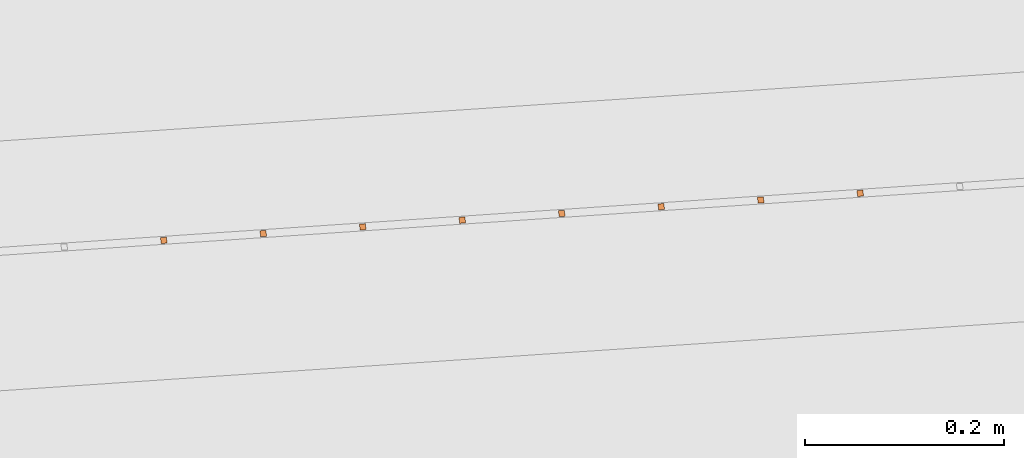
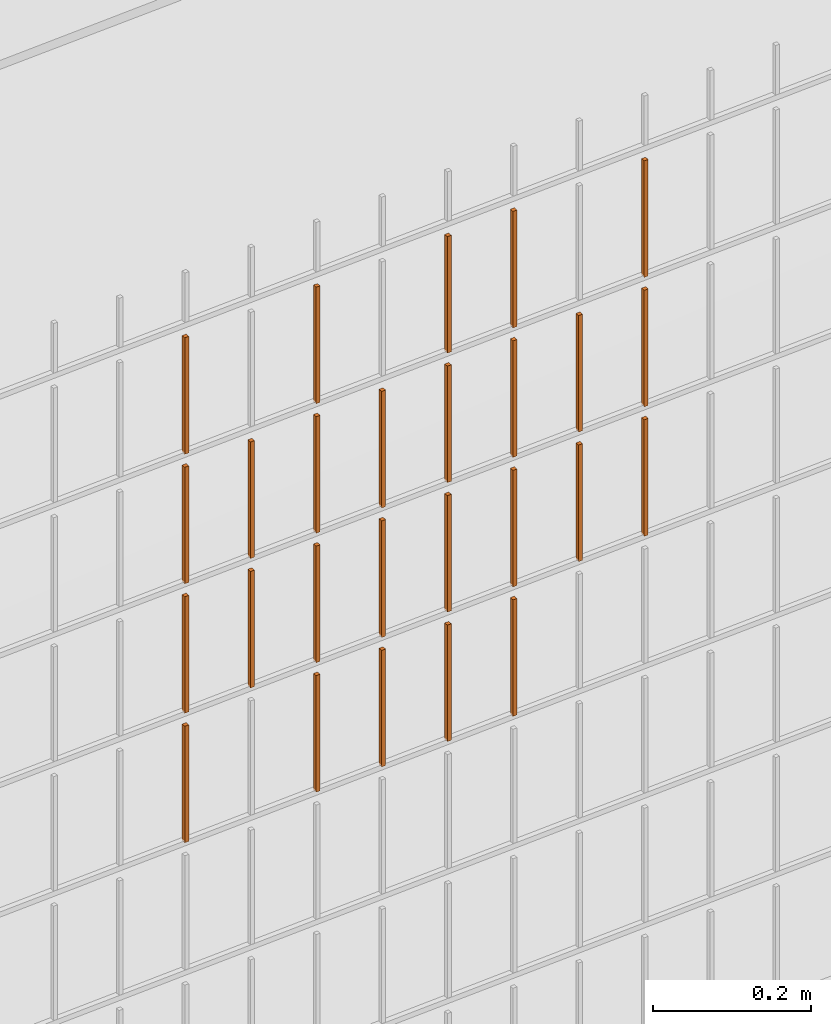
# One storey, part 206 of 1809: 26 proxies, 1 element without a shape of its own.
"""IFC2X3 building model written with IfcOpenShell, lengths in millimetres."""

from ifc_helpers import new_model, entity, si_unit, converted_unit, derived_unit, money_unit, direction, frame, origin_with_axes, place, context, subcontext, project, spatial, faceted_brep, source, transform, mapped, material, type_object, element, aggregate, save


model = new_model("IFC2X3")

# Units and contexts
model_context = context("Model", 3, precision=0.01, world=origin_with_axes(), true_north=direction((0.0, 1.0)))
body_context = subcontext(model_context, "Body", "Model", "MODEL_VIEW")
ifc_project = project(units=[si_unit("LENGTHUNIT", "METRE", prefix="MILLI"), si_unit("AREAUNIT", "SQUARE_METRE"), si_unit("VOLUMEUNIT", "CUBIC_METRE"), converted_unit("PLANEANGLEUNIT", "DEGREE", entity("IfcPlaneAngleMeasure", 0.0174532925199), si_unit("PLANEANGLEUNIT", "RADIAN"), dimensions=[0, 0, 0, 0, 0, 0, 0]), si_unit("SOLIDANGLEUNIT", "STERADIAN"), money_unit("EUR"), converted_unit("TIMEUNIT", "Year", entity("IfcTimeMeasure", 31556926.0), si_unit("TIMEUNIT", "SECOND"), dimensions=[0, 0, 1, 0, 0, 0, 0]), si_unit("MASSUNIT", "GRAM", prefix="KILO"), si_unit("THERMODYNAMICTEMPERATUREUNIT", "DEGREE_CELSIUS"), si_unit("LUMINOUSINTENSITYUNIT", "LUMEN"), si_unit("ENERGYUNIT", "JOULE", prefix="MEGA"), derived_unit("THERMALCONDUCTANCEUNIT", [(si_unit("POWERUNIT", "WATT"), 1), (si_unit("LENGTHUNIT", "METRE"), -1), (si_unit("THERMODYNAMICTEMPERATUREUNIT", "KELVIN"), -1)]), derived_unit("SPECIFICHEATCAPACITYUNIT", [(si_unit("ENERGYUNIT", "JOULE"), 1), (si_unit("MASSUNIT", "GRAM", prefix="KILO"), -1), (si_unit("THERMODYNAMICTEMPERATUREUNIT", "KELVIN"), -1)]), derived_unit("MASSDENSITYUNIT", [(si_unit("MASSUNIT", "GRAM", prefix="KILO"), 1), (si_unit("VOLUMEUNIT", "CUBIC_METRE"), -1)])], contexts=[model_context])

# Site, building, storey
site_placement = place(None, origin_with_axes())
site = spatial("IfcSite", under=ifc_project, at=site_placement, Name="Politse- ja Piirivalveameti ning Päästeameti ühishoone", CompositionType="ELEMENT")
building_placement = place(site_placement, origin_with_axes())
building = spatial("IfcBuilding", under=site, at=building_placement, Name="Politse- ja Piirivalveameti ning Päästeameti ühishoone", CompositionType="ELEMENT")
storey_placement = place(building_placement, origin_with_axes())
storey = spatial("IfcBuildingStorey", under=building, at=storey_placement, Name="Esimene korrus", CompositionType="ELEMENT", Elevation=0.0)

# Proxies
building_element_proxy_type_1 = type_object("IfcBuildingElementProxyType", Name="Railing Type", PredefinedType="NOTDEFINED")
proxy_1_placement = place(storey_placement, frame((89252.001212, -29183.4766571, 203.661247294), z_axis=(0.0, 0.0, 1.0), x_axis=(1.0, 0.0, 0.0)))
proxy_1 = element("IfcBuildingElementProxy", 1, at=proxy_1_placement, inside=storey, type_object=building_element_proxy_type_1, Name="PIIRDEAED")
ifc_material = material(Name="ET-03_Raud")
building_element_proxy_type_2 = type_object("IfcBuildingElementProxyType", Name="IfcBuildingElementProxy", PredefinedType="NOTDEFINED")
shared_shape_1 = source(origin_with_axes(), body_context, "Body", "Brep", [
    faceted_brep([(3.0, 3.0, -0.000752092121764), (-3.0, 3.0, -0.000752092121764), (-3.0, 3.0, 179.99926046), (3.0, 3.0, 179.99926046), (3.0, -3.0, 0.000752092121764), (-3.0, -3.0, 0.000752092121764), (-3.0, -3.0, 180.000764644), (3.0, -3.0, 180.000764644)], [[[0, 1, 2, 3]], [[0, 4, 5, 1]], [[1, 5, 6, 2]], [[3, 2, 6, 7]], [[4, 0, 3, 7]], [[5, 4, 7, 6]]]),
])
proxy_2_placement = place(proxy_1_placement, frame((-63681.5799241, -21599.2251599, 1211.23320245), z_axis=(0.0, 0.0, 1.0), x_axis=(1.0, 0.0, 0.0)))
proxy_2 = element("IfcBuildingElementProxy", 2, at=proxy_2_placement, type_object=building_element_proxy_type_2, material=ifc_material, Name="BALUSTER - 001", context=body_context, shape_type="MappedRepresentation", body=[
    mapped(shared_shape_1, transform((0.0, 0.0, 0.0), x_axis=(-0.0673926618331, 0.997726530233, 0.0), y_axis=(-0.997726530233, -0.0673926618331, 0.0), z_axis=(0.0, 0.0, 1.0))),
])
shared_shape_2 = source(origin_with_axes(), body_context, "Body", "Brep", [
    faceted_brep([(3.0, 3.0, -0.000752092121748), (-3.0, 3.0, -0.00075209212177), (-3.0, 3.0, 179.99926046), (3.0, 3.0, 179.99926046), (3.0, -3.0, 0.00075209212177), (-3.0, -3.0, 0.000752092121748), (-3.0, -3.0, 180.000764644), (3.0, -3.0, 180.000764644)], [[[0, 1, 2, 3]], [[0, 4, 5, 1]], [[1, 5, 6, 2]], [[3, 2, 6, 7]], [[4, 0, 3, 7]], [[5, 4, 7, 6]]]),
])
proxy_3_placement = place(proxy_1_placement, frame((-63382.261965, -21579.0073613, 1811.30841166), z_axis=(0.0, 0.0, 1.0), x_axis=(1.0, 0.0, 0.0)))
proxy_3 = element("IfcBuildingElementProxy", 3, at=proxy_3_placement, type_object=building_element_proxy_type_2, material=ifc_material, Name="BALUSTER - 001", context=body_context, shape_type="MappedRepresentation", body=[
    mapped(shared_shape_2, transform((0.0, 0.0, 0.0), x_axis=(-0.0673926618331, 0.997726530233, 0.0), y_axis=(-0.997726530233, -0.0673926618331, 0.0), z_axis=(0.0, 0.0, 1.0))),
])
shared_shape_3 = source(origin_with_axes(), body_context, "Body", "Brep", [
    faceted_brep([(3.0, 3.0, -0.000752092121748), (-3.0, 3.0, -0.00075209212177), (-3.0, 3.0, 179.99926046), (3.0, 3.0, 179.99926046), (3.0, -3.0, 0.00075209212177), (-3.0, -3.0, 0.000752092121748), (-3.0, -3.0, 180.000764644), (3.0, -3.0, 180.000764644)], [[[0, 1, 2, 3]], [[0, 4, 5, 1]], [[1, 5, 6, 2]], [[3, 2, 6, 7]], [[4, 0, 3, 7]], [[5, 4, 7, 6]]]),
])
proxy_4_placement = place(proxy_1_placement, frame((-63382.261965, -21579.0073613, 1211.30841166), z_axis=(0.0, 0.0, 1.0), x_axis=(1.0, 0.0, 0.0)))
proxy_4 = element("IfcBuildingElementProxy", 4, at=proxy_4_placement, type_object=building_element_proxy_type_2, material=ifc_material, Name="BALUSTER - 001", context=body_context, shape_type="MappedRepresentation", body=[
    mapped(shared_shape_3, transform((0.0, 0.0, 0.0), x_axis=(-0.0673926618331, 0.997726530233, 0.0), y_axis=(-0.997726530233, -0.0673926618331, 0.0), z_axis=(0.0, 0.0, 1.0))),
])
shared_shape_4 = source(origin_with_axes(), body_context, "Body", "Brep", [
    faceted_brep([(3.0, 3.0, -0.000752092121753), (-3.0, 3.0, -0.000752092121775), (-3.0, 3.0, 179.99926046), (3.0, 3.0, 179.99926046), (3.0, -3.0, 0.000752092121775), (-3.0, -3.0, 0.000752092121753), (-3.0, -3.0, 180.000764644), (3.0, -3.0, 180.000764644)], [[[0, 1, 2, 3]], [[0, 4, 5, 1]], [[1, 5, 6, 2]], [[3, 2, 6, 7]], [[4, 0, 3, 7]], [[5, 4, 7, 6]]]),
])
proxy_5_placement = place(proxy_1_placement, frame((-63182.7166589, -21565.5288289, 1811.35855114), z_axis=(0.0, 0.0, 1.0), x_axis=(1.0, 0.0, 0.0)))
proxy_5 = element("IfcBuildingElementProxy", 5, at=proxy_5_placement, type_object=building_element_proxy_type_2, material=ifc_material, Name="BALUSTER - 001", context=body_context, shape_type="MappedRepresentation", body=[
    mapped(shared_shape_4, transform((0.0, 0.0, 0.0), x_axis=(-0.0673926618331, 0.997726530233, 0.0), y_axis=(-0.997726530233, -0.0673926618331, 0.0), z_axis=(0.0, 0.0, 1.0))),
])
proxy_6_placement = place(proxy_1_placement, frame((-63482.034618, -21585.7466275, 1811.28334193), z_axis=(0.0, 0.0, 1.0), x_axis=(1.0, 0.0, 0.0)))
proxy_6 = element("IfcBuildingElementProxy", 6, at=proxy_6_placement, type_object=building_element_proxy_type_2, material=ifc_material, Name="BALUSTER - 001", context=body_context, shape_type="MappedRepresentation", body=[
    mapped(shared_shape_4, transform((0.0, 0.0, 0.0), x_axis=(-0.0673926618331, 0.997726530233, 0.0), y_axis=(-0.997726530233, -0.0673926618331, 0.0), z_axis=(0.0, 0.0, 1.0))),
])
shared_shape_5 = source(origin_with_axes(), body_context, "Body", "Brep", [
    faceted_brep([(3.0, 3.0, -0.000752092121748), (-3.0, 3.0, -0.00075209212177), (-3.0, 3.0, 179.99926046), (3.0, 3.0, 179.99926046), (3.0, -3.0, 0.00075209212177), (-3.0, -3.0, 0.000752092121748), (-3.0, -3.0, 180.000764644), (3.0, -3.0, 180.000764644)], [[[0, 1, 2, 3]], [[0, 4, 5, 1]], [[1, 5, 6, 2]], [[3, 2, 6, 7]], [[4, 0, 3, 7]], [[5, 4, 7, 6]]]),
])
proxy_7_placement = place(proxy_1_placement, frame((-63382.261965, -21579.0073613, 1411.30841166), z_axis=(0.0, 0.0, 1.0), x_axis=(1.0, 0.0, 0.0)))
proxy_7 = element("IfcBuildingElementProxy", 7, at=proxy_7_placement, type_object=building_element_proxy_type_2, material=ifc_material, Name="BALUSTER - 001", context=body_context, shape_type="MappedRepresentation", body=[
    mapped(shared_shape_5, transform((0.0, 0.0, 0.0), x_axis=(-0.0673926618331, 0.997726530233, 0.0), y_axis=(-0.997726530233, -0.0673926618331, 0.0), z_axis=(0.0, 0.0, 1.0))),
])
proxy_8_placement = place(proxy_1_placement, frame((-63382.261965, -21579.0073613, 1611.30841166), z_axis=(0.0, 0.0, 1.0), x_axis=(1.0, 0.0, 0.0)))
proxy_8 = element("IfcBuildingElementProxy", 8, at=proxy_8_placement, type_object=building_element_proxy_type_2, material=ifc_material, Name="BALUSTER - 001", context=body_context, shape_type="MappedRepresentation", body=[
    mapped(shared_shape_5, transform((0.0, 0.0, 0.0), x_axis=(-0.0673926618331, 0.997726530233, 0.0), y_axis=(-0.997726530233, -0.0673926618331, 0.0), z_axis=(0.0, 0.0, 1.0))),
])
shared_shape_6 = source(origin_with_axes(), body_context, "Body", "Brep", [
    faceted_brep([(3.0, 3.0, -0.000752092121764), (-3.0, 3.0, -0.000752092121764), (-3.0, 3.0, 179.99926046), (3.0, 3.0, 179.99926046), (3.0, -3.0, 0.000752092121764), (-3.0, -3.0, 0.000752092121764), (-3.0, -3.0, 180.000764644), (3.0, -3.0, 180.000764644)], [[[0, 1, 2, 3]], [[0, 4, 5, 1]], [[1, 5, 6, 2]], [[3, 2, 6, 7]], [[4, 0, 3, 7]], [[5, 4, 7, 6]]]),
])
proxy_9_placement = place(proxy_1_placement, frame((-63681.5799241, -21599.2251599, 1811.23320245), z_axis=(0.0, 0.0, 1.0), x_axis=(1.0, 0.0, 0.0)))
proxy_9 = element("IfcBuildingElementProxy", 9, at=proxy_9_placement, type_object=building_element_proxy_type_2, material=ifc_material, Name="BALUSTER - 001", context=body_context, shape_type="MappedRepresentation", body=[
    mapped(shared_shape_6, transform((0.0, 0.0, 0.0), x_axis=(-0.0673926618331, 0.997726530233, 0.0), y_axis=(-0.997726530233, -0.0673926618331, 0.0), z_axis=(0.0, 0.0, 1.0))),
])
shared_shape_7 = source(origin_with_axes(), body_context, "Body", "Brep", [
    faceted_brep([(3.0, 3.0, -0.000752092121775), (-3.0, 3.0, -0.000752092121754), (-3.0, 3.0, 179.99926046), (3.0, 3.0, 179.99926046), (3.0, -3.0, 0.000752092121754), (-3.0, -3.0, 0.000752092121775), (-3.0, -3.0, 180.000764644), (3.0, -3.0, 180.000764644)], [[[0, 1, 2, 3]], [[0, 4, 5, 1]], [[1, 5, 6, 2]], [[3, 2, 6, 7]], [[4, 0, 3, 7]], [[5, 4, 7, 6]]]),
])
proxy_10_placement = place(proxy_1_placement, frame((-63581.807271, -21592.4858937, 1211.25827219), z_axis=(0.0, 0.0, 1.0), x_axis=(1.0, 0.0, 0.0)))
proxy_10 = element("IfcBuildingElementProxy", 10, at=proxy_10_placement, type_object=building_element_proxy_type_2, material=ifc_material, Name="BALUSTER - 001", context=body_context, shape_type="MappedRepresentation", body=[
    mapped(shared_shape_7, transform((0.0, 0.0, 0.0), x_axis=(-0.0673926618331, 0.997726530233, 0.0), y_axis=(-0.997726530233, -0.0673926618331, 0.0), z_axis=(0.0, 0.0, 1.0))),
])
shared_shape_8 = source(origin_with_axes(), body_context, "Body", "Brep", [
    faceted_brep([(3.0, 3.0, -0.000752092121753), (-3.0, 3.0, -0.000752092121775), (-3.0, 3.0, 179.99926046), (3.0, 3.0, 179.99926046), (3.0, -3.0, 0.000752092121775), (-3.0, -3.0, 0.000752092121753), (-3.0, -3.0, 180.000764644), (3.0, -3.0, 180.000764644)], [[[0, 1, 2, 3]], [[0, 4, 5, 1]], [[1, 5, 6, 2]], [[3, 2, 6, 7]], [[4, 0, 3, 7]], [[5, 4, 7, 6]]]),
])
proxy_11_placement = place(proxy_1_placement, frame((-63482.034618, -21585.7466275, 1211.28334193), z_axis=(0.0, 0.0, 1.0), x_axis=(1.0, 0.0, 0.0)))
proxy_11 = element("IfcBuildingElementProxy", 11, at=proxy_11_placement, type_object=building_element_proxy_type_2, material=ifc_material, Name="BALUSTER - 001", context=body_context, shape_type="MappedRepresentation", body=[
    mapped(shared_shape_8, transform((0.0, 0.0, 0.0), x_axis=(-0.0673926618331, 0.997726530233, 0.0), y_axis=(-0.997726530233, -0.0673926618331, 0.0), z_axis=(0.0, 0.0, 1.0))),
])
shared_shape_9 = source(origin_with_axes(), body_context, "Body", "Brep", [
    faceted_brep([(3.0, 3.0, -0.000752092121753), (-3.0, 3.0, -0.000752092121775), (-3.0, 3.0, 179.99926046), (3.0, 3.0, 179.99926046), (3.0, -3.0, 0.000752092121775), (-3.0, -3.0, 0.000752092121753), (-3.0, -3.0, 180.000764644), (3.0, -3.0, 180.000764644)], [[[0, 1, 2, 3]], [[0, 4, 5, 1]], [[1, 5, 6, 2]], [[3, 2, 6, 7]], [[4, 0, 3, 7]], [[5, 4, 7, 6]]]),
])
proxy_12_placement = place(proxy_1_placement, frame((-63182.7166589, -21565.5288289, 1411.35855114), z_axis=(0.0, 0.0, 1.0), x_axis=(1.0, 0.0, 0.0)))
proxy_12 = element("IfcBuildingElementProxy", 12, at=proxy_12_placement, type_object=building_element_proxy_type_2, material=ifc_material, Name="BALUSTER - 001", context=body_context, shape_type="MappedRepresentation", body=[
    mapped(shared_shape_9, transform((0.0, 0.0, 0.0), x_axis=(-0.0673926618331, 0.997726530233, 0.0), y_axis=(-0.997726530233, -0.0673926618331, 0.0), z_axis=(0.0, 0.0, 1.0))),
])
proxy_13_placement = place(proxy_1_placement, frame((-63482.034618, -21585.7466275, 1411.28334193), z_axis=(0.0, 0.0, 1.0), x_axis=(1.0, 0.0, 0.0)))
proxy_13 = element("IfcBuildingElementProxy", 13, at=proxy_13_placement, type_object=building_element_proxy_type_2, material=ifc_material, Name="BALUSTER - 001", context=body_context, shape_type="MappedRepresentation", body=[
    mapped(shared_shape_9, transform((0.0, 0.0, 0.0), x_axis=(-0.0673926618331, 0.997726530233, 0.0), y_axis=(-0.997726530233, -0.0673926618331, 0.0), z_axis=(0.0, 0.0, 1.0))),
])
proxy_14_placement = place(proxy_1_placement, frame((-63182.7166589, -21565.5288289, 1611.35855114), z_axis=(0.0, 0.0, 1.0), x_axis=(1.0, 0.0, 0.0)))
proxy_14 = element("IfcBuildingElementProxy", 14, at=proxy_14_placement, type_object=building_element_proxy_type_2, material=ifc_material, Name="BALUSTER - 001", context=body_context, shape_type="MappedRepresentation", body=[
    mapped(shared_shape_9, transform((0.0, 0.0, 0.0), x_axis=(-0.0673926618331, 0.997726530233, 0.0), y_axis=(-0.997726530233, -0.0673926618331, 0.0), z_axis=(0.0, 0.0, 1.0))),
])
proxy_15_placement = place(proxy_1_placement, frame((-63482.034618, -21585.7466275, 1611.28334193), z_axis=(0.0, 0.0, 1.0), x_axis=(1.0, 0.0, 0.0)))
proxy_15 = element("IfcBuildingElementProxy", 15, at=proxy_15_placement, type_object=building_element_proxy_type_2, material=ifc_material, Name="BALUSTER - 001", context=body_context, shape_type="MappedRepresentation", body=[
    mapped(shared_shape_9, transform((0.0, 0.0, 0.0), x_axis=(-0.0673926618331, 0.997726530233, 0.0), y_axis=(-0.997726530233, -0.0673926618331, 0.0), z_axis=(0.0, 0.0, 1.0))),
])
shared_shape_10 = source(origin_with_axes(), body_context, "Body", "Brep", [
    faceted_brep([(3.0, 3.0, -0.000752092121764), (-3.0, 3.0, -0.000752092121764), (-3.0, 3.0, 179.99926046), (3.0, 3.0, 179.99926046), (3.0, -3.0, 0.000752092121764), (-3.0, -3.0, 0.000752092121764), (-3.0, -3.0, 180.000764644), (3.0, -3.0, 180.000764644)], [[[0, 1, 2, 3]], [[0, 4, 5, 1]], [[1, 5, 6, 2]], [[3, 2, 6, 7]], [[4, 0, 3, 7]], [[5, 4, 7, 6]]]),
])
proxy_16_placement = place(proxy_1_placement, frame((-63681.5799241, -21599.2251599, 1411.23320245), z_axis=(0.0, 0.0, 1.0), x_axis=(1.0, 0.0, 0.0)))
proxy_16 = element("IfcBuildingElementProxy", 16, at=proxy_16_placement, type_object=building_element_proxy_type_2, material=ifc_material, Name="BALUSTER - 001", context=body_context, shape_type="MappedRepresentation", body=[
    mapped(shared_shape_10, transform((0.0, 0.0, 0.0), x_axis=(-0.0673926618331, 0.997726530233, 0.0), y_axis=(-0.997726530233, -0.0673926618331, 0.0), z_axis=(0.0, 0.0, 1.0))),
])
proxy_17_placement = place(proxy_1_placement, frame((-63681.5799241, -21599.2251599, 1611.23320245), z_axis=(0.0, 0.0, 1.0), x_axis=(1.0, 0.0, 0.0)))
proxy_17 = element("IfcBuildingElementProxy", 17, at=proxy_17_placement, type_object=building_element_proxy_type_2, material=ifc_material, Name="BALUSTER - 001", context=body_context, shape_type="MappedRepresentation", body=[
    mapped(shared_shape_10, transform((0.0, 0.0, 0.0), x_axis=(-0.0673926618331, 0.997726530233, 0.0), y_axis=(-0.997726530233, -0.0673926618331, 0.0), z_axis=(0.0, 0.0, 1.0))),
])
shared_shape_11 = source(origin_with_axes(), body_context, "Body", "Brep", [
    faceted_brep([(3.0, 3.0, -0.000752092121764), (-3.0, 3.0, -0.000752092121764), (-3.0, 3.0, 179.99926046), (3.0, 3.0, 179.99926046), (3.0, -3.0, 0.000752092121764), (-3.0, -3.0, 0.000752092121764), (-3.0, -3.0, 180.000764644), (3.0, -3.0, 180.000764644)], [[[0, 1, 2, 3]], [[0, 4, 5, 1]], [[1, 5, 6, 2]], [[3, 2, 6, 7]], [[4, 0, 3, 7]], [[5, 4, 7, 6]]]),
])
proxy_18_placement = place(proxy_1_placement, frame((-63881.1252301, -21612.7036922, 1211.18306298), z_axis=(0.0, 0.0, 1.0), x_axis=(1.0, 0.0, 0.0)))
proxy_18 = element("IfcBuildingElementProxy", 18, at=proxy_18_placement, type_object=building_element_proxy_type_2, material=ifc_material, Name="BALUSTER - 001", context=body_context, shape_type="MappedRepresentation", body=[
    mapped(shared_shape_11, transform((0.0, 0.0, 0.0), x_axis=(-0.0673926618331, 0.997726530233, 0.0), y_axis=(-0.997726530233, -0.0673926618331, 0.0), z_axis=(0.0, 0.0, 1.0))),
])
shared_shape_12 = source(origin_with_axes(), body_context, "Body", "Brep", [
    faceted_brep([(3.0, 3.0, -0.000752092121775), (-3.0, 3.0, -0.000752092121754), (-3.0, 3.0, 179.99926046), (3.0, 3.0, 179.99926046), (3.0, -3.0, 0.000752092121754), (-3.0, -3.0, 0.000752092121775), (-3.0, -3.0, 180.000764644), (3.0, -3.0, 180.000764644)], [[[0, 1, 2, 3]], [[0, 4, 5, 1]], [[1, 5, 6, 2]], [[3, 2, 6, 7]], [[4, 0, 3, 7]], [[5, 4, 7, 6]]]),
])
proxy_19_placement = place(proxy_1_placement, frame((-63282.489312, -21572.2680951, 1411.3334814), z_axis=(0.0, 0.0, 1.0), x_axis=(1.0, 0.0, 0.0)))
proxy_19 = element("IfcBuildingElementProxy", 19, at=proxy_19_placement, type_object=building_element_proxy_type_2, material=ifc_material, Name="BALUSTER - 001", context=body_context, shape_type="MappedRepresentation", body=[
    mapped(shared_shape_12, transform((0.0, 0.0, 0.0), x_axis=(-0.0673926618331, 0.997726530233, 0.0), y_axis=(-0.997726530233, -0.0673926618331, 0.0), z_axis=(0.0, 0.0, 1.0))),
])
proxy_20_placement = place(proxy_1_placement, frame((-63282.489312, -21572.2680951, 1611.3334814), z_axis=(0.0, 0.0, 1.0), x_axis=(1.0, 0.0, 0.0)))
proxy_20 = element("IfcBuildingElementProxy", 20, at=proxy_20_placement, type_object=building_element_proxy_type_2, material=ifc_material, Name="BALUSTER - 001", context=body_context, shape_type="MappedRepresentation", body=[
    mapped(shared_shape_12, transform((0.0, 0.0, 0.0), x_axis=(-0.0673926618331, 0.997726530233, 0.0), y_axis=(-0.997726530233, -0.0673926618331, 0.0), z_axis=(0.0, 0.0, 1.0))),
])
shared_shape_13 = source(origin_with_axes(), body_context, "Body", "Brep", [
    faceted_brep([(3.0, 3.0, -0.000752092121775), (-3.0, 3.0, -0.000752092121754), (-3.0, 3.0, 179.99926046), (3.0, 3.0, 179.99926046), (3.0, -3.0, 0.000752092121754), (-3.0, -3.0, 0.000752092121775), (-3.0, -3.0, 180.000764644), (3.0, -3.0, 180.000764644)], [[[0, 1, 2, 3]], [[0, 4, 5, 1]], [[1, 5, 6, 2]], [[3, 2, 6, 7]], [[4, 0, 3, 7]], [[5, 4, 7, 6]]]),
])
proxy_21_placement = place(proxy_1_placement, frame((-63581.807271, -21592.4858937, 1411.25827219), z_axis=(0.0, 0.0, 1.0), x_axis=(1.0, 0.0, 0.0)))
proxy_21 = element("IfcBuildingElementProxy", 21, at=proxy_21_placement, type_object=building_element_proxy_type_2, material=ifc_material, Name="BALUSTER - 001", context=body_context, shape_type="MappedRepresentation", body=[
    mapped(shared_shape_13, transform((0.0, 0.0, 0.0), x_axis=(-0.0673926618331, 0.997726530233, 0.0), y_axis=(-0.997726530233, -0.0673926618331, 0.0), z_axis=(0.0, 0.0, 1.0))),
])
proxy_22_placement = place(proxy_1_placement, frame((-63581.807271, -21592.4858937, 1611.25827219), z_axis=(0.0, 0.0, 1.0), x_axis=(1.0, 0.0, 0.0)))
proxy_22 = element("IfcBuildingElementProxy", 22, at=proxy_22_placement, type_object=building_element_proxy_type_2, material=ifc_material, Name="BALUSTER - 001", context=body_context, shape_type="MappedRepresentation", body=[
    mapped(shared_shape_13, transform((0.0, 0.0, 0.0), x_axis=(-0.0673926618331, 0.997726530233, 0.0), y_axis=(-0.997726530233, -0.0673926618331, 0.0), z_axis=(0.0, 0.0, 1.0))),
])
shared_shape_14 = source(origin_with_axes(), body_context, "Body", "Brep", [
    faceted_brep([(3.0, 3.0, -0.000752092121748), (-3.0, 3.0, -0.00075209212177), (-3.0, 3.0, 179.99926046), (3.0, 3.0, 179.99926046), (3.0, -3.0, 0.00075209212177), (-3.0, -3.0, 0.000752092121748), (-3.0, -3.0, 180.000764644), (3.0, -3.0, 180.000764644)], [[[0, 1, 2, 3]], [[0, 4, 5, 1]], [[1, 5, 6, 2]], [[3, 2, 6, 7]], [[4, 0, 3, 7]], [[5, 4, 7, 6]]]),
])
proxy_23_placement = place(proxy_1_placement, frame((-63781.3525771, -21605.964426, 1411.20813271), z_axis=(0.0, 0.0, 1.0), x_axis=(1.0, 0.0, 0.0)))
proxy_23 = element("IfcBuildingElementProxy", 23, at=proxy_23_placement, type_object=building_element_proxy_type_2, material=ifc_material, Name="BALUSTER - 001", context=body_context, shape_type="MappedRepresentation", body=[
    mapped(shared_shape_14, transform((0.0, 0.0, 0.0), x_axis=(-0.0673926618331, 0.997726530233, 0.0), y_axis=(-0.997726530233, -0.0673926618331, 0.0), z_axis=(0.0, 0.0, 1.0))),
])
proxy_24_placement = place(proxy_1_placement, frame((-63781.3525771, -21605.964426, 1611.20813271), z_axis=(0.0, 0.0, 1.0), x_axis=(1.0, 0.0, 0.0)))
proxy_24 = element("IfcBuildingElementProxy", 24, at=proxy_24_placement, type_object=building_element_proxy_type_2, material=ifc_material, Name="BALUSTER - 001", context=body_context, shape_type="MappedRepresentation", body=[
    mapped(shared_shape_14, transform((0.0, 0.0, 0.0), x_axis=(-0.0673926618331, 0.997726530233, 0.0), y_axis=(-0.997726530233, -0.0673926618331, 0.0), z_axis=(0.0, 0.0, 1.0))),
])
shared_shape_15 = source(origin_with_axes(), body_context, "Body", "Brep", [
    faceted_brep([(3.0, 3.0, -0.000752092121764), (-3.0, 3.0, -0.000752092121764), (-3.0, 3.0, 179.99926046), (3.0, 3.0, 179.99926046), (3.0, -3.0, 0.000752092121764), (-3.0, -3.0, 0.000752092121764), (-3.0, -3.0, 180.000764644), (3.0, -3.0, 180.000764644)], [[[0, 1, 2, 3]], [[0, 4, 5, 1]], [[1, 5, 6, 2]], [[3, 2, 6, 7]], [[4, 0, 3, 7]], [[5, 4, 7, 6]]]),
])
proxy_25_placement = place(proxy_1_placement, frame((-63881.1252301, -21612.7036922, 1411.18306298), z_axis=(0.0, 0.0, 1.0), x_axis=(1.0, 0.0, 0.0)))
proxy_25 = element("IfcBuildingElementProxy", 25, at=proxy_25_placement, type_object=building_element_proxy_type_2, material=ifc_material, Name="BALUSTER - 001", context=body_context, shape_type="MappedRepresentation", body=[
    mapped(shared_shape_15, transform((0.0, 0.0, 0.0), x_axis=(-0.0673926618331, 0.997726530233, 0.0), y_axis=(-0.997726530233, -0.0673926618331, 0.0), z_axis=(0.0, 0.0, 1.0))),
])
proxy_26_placement = place(proxy_1_placement, frame((-63881.1252301, -21612.7036922, 1611.18306298), z_axis=(0.0, 0.0, 1.0), x_axis=(1.0, 0.0, 0.0)))
proxy_26 = element("IfcBuildingElementProxy", 26, at=proxy_26_placement, type_object=building_element_proxy_type_2, material=ifc_material, Name="BALUSTER - 001", context=body_context, shape_type="MappedRepresentation", body=[
    mapped(shared_shape_15, transform((0.0, 0.0, 0.0), x_axis=(-0.0673926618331, 0.997726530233, 0.0), y_axis=(-0.997726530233, -0.0673926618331, 0.0), z_axis=(0.0, 0.0, 1.0))),
])
shared_shape_16 = source(origin_with_axes(), body_context, "Body", "Brep", [
    faceted_brep([(3.0, 3.0, -0.000752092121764), (-3.0, 3.0, -0.000752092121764), (-3.0, 3.0, 179.99926046), (3.0, 3.0, 179.99926046), (3.0, -3.0, 0.000752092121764), (-3.0, -3.0, 0.000752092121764), (-3.0, -3.0, 180.000764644), (3.0, -3.0, 180.000764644)], [[[0, 1, 2, 3]], [[0, 4, 5, 1]], [[1, 5, 6, 2]], [[3, 2, 6, 7]], [[4, 0, 3, 7]], [[5, 4, 7, 6]]]),
])
proxy_27_placement = place(proxy_1_placement, frame((-63881.1252301, -21612.7036922, 1811.18306298), z_axis=(0.0, 0.0, 1.0), x_axis=(1.0, 0.0, 0.0)))
proxy_27 = element("IfcBuildingElementProxy", 27, at=proxy_27_placement, type_object=building_element_proxy_type_2, material=ifc_material, Name="BALUSTER - 001", context=body_context, shape_type="MappedRepresentation", body=[
    mapped(shared_shape_16, transform((0.0, 0.0, 0.0), x_axis=(-0.0673926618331, 0.997726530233, 0.0), y_axis=(-0.997726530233, -0.0673926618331, 0.0), z_axis=(0.0, 0.0, 1.0))),
])
aggregate(proxy_1, [proxy_4, proxy_11, proxy_10, proxy_2, proxy_18, proxy_12, proxy_19, proxy_7, proxy_13, proxy_21, proxy_16, proxy_23, proxy_25, proxy_14, proxy_20, proxy_8, proxy_15, proxy_22, proxy_17, proxy_24, proxy_26, proxy_5, proxy_3, proxy_6, proxy_9, proxy_27])

save(model, "model.ifc")
